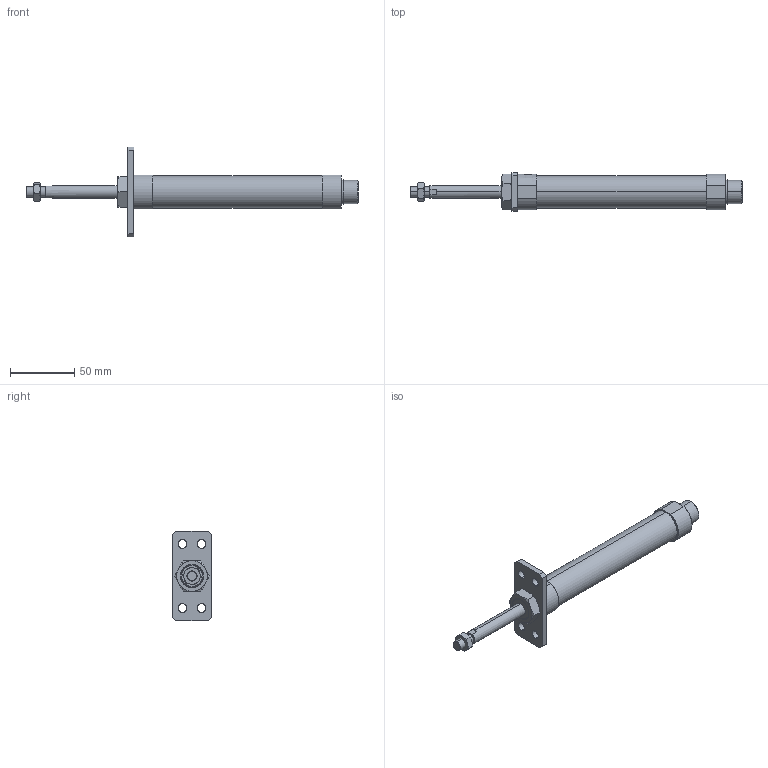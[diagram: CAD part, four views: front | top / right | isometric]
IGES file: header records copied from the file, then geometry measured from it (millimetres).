
Start section: SolidWorks IGES file using analytic representation for surfaces
Global section: file name: C:\Users\Toshiba\Desktop\J#0-20-50-A.IGS; native system: SolidWorks 2014; preprocessor: SolidWorks 2014; author: Toshiba; date: 160308.142722; units: millimetre
Bounding box: 259 x 30 x 70 mm (x, y, z)
Surface area: 25351.3 mm2 (no closed solid volume)
Topology: 0 solids, 0 shells, 109 faces, 1922 edges, 1922 vertices
Faces by surface type: bspline 69, revolution 40
